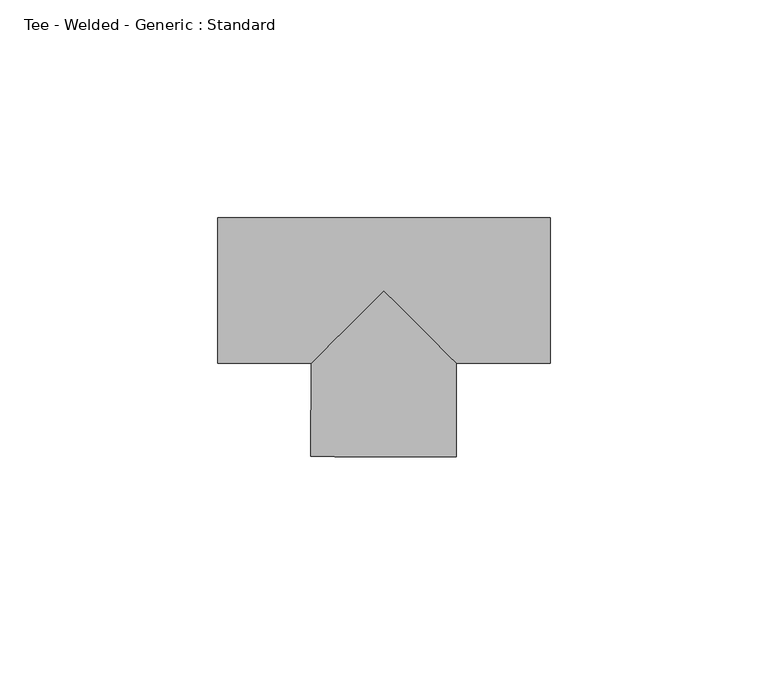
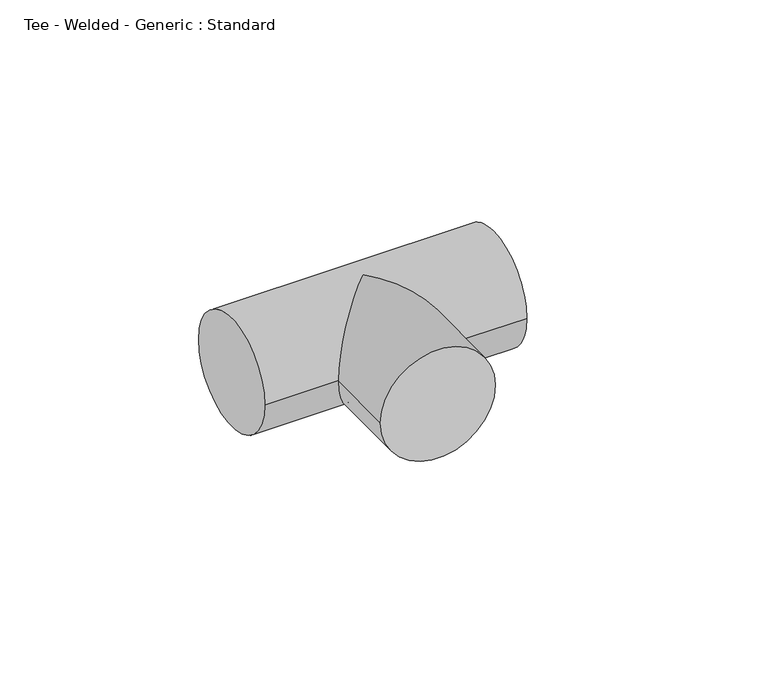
"""IFC4 building model written with IfcOpenShell, lengths in millimetres: pipe fitting geometry, Tee - Welded - Generic : Standard."""

from ifc_helpers import new_model, si_unit, frame, origin, place, context, project, spatial, circle_curve, ellipse_curve, source, transform, mapped, element, save
from ifc_brep_helpers import plane_surface, cylinder_surface, advanced_brep


def tee_welded_generic_standard_e05e198e(model_context):
    return source(origin(), model_context, "Body", "AdvancedBrep", [
        advanced_brep(
        [(-38.1, -16.66875, 0.0), (-38.1, 16.66875, 0.0), (38.1, -16.66875, 0.0), (38.1, 16.66875, 0.0), (-16.7202407, -16.66875, 0.0), (0.0, 0.0, 16.66875), (16.6174178, -16.66875, 0.0), (0.0, 0.0, -16.66875), (-16.7861821, -38.0484076, 0.0), (16.5511594, -38.15123, 0.0)],
        [
            (0, 1, circle_curve(frame((-38.1, 0.0, 0.0), z_axis=(-1.0, 0.0, 0.0), x_axis=(0.0, 1.0, 0.0)), 16.66875)),
            (1, 0, circle_curve(frame((-38.1, 0.0, 0.0), z_axis=(-1.0, 0.0, 0.0), x_axis=(0.0, 1.0, 0.0)), 16.66875)),
            (2, 3, circle_curve(frame((38.1, 0.0, 0.0), z_axis=(1.0, 0.0, 0.0), x_axis=(0.0, 1.0, 0.0)), 16.66875)),
            (3, 2, circle_curve(frame((38.1, 0.0, 0.0), z_axis=(1.0, 0.0, 0.0), x_axis=(0.0, 1.0, 0.0)), 16.66875)),
            (0, 4),
            (4, 5, ellipse_curve(frame((0.0, 0.0, 0.0), z_axis=(-0.706015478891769, 0.7081964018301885, 0.0), x_axis=(-0.7081964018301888, -0.7060154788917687, 0.0)), 23.6096098, 16.66875)),
            (5, 6, ellipse_curve(frame((0.0, 0.0, 0.0), z_axis=(0.7081964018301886, 0.706015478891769, 0.0), x_axis=(-0.706015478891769, 0.7081964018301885, 0.0)), 23.536903, 16.66875)),
            (6, 2),
            (3, 1),
            (6, 7, ellipse_curve(frame((0.0, 0.0, 0.0), z_axis=(0.7081964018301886, 0.706015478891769, 0.0), x_axis=(-0.706015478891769, 0.7081964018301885, 0.0)), 23.536903, 16.66875)),
            (7, 4, ellipse_curve(frame((0.0, 0.0, 0.0), z_axis=(-0.706015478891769, 0.7081964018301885, 0.0), x_axis=(-0.7081964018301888, -0.7060154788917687, 0.0)), 23.6096098, 16.66875)),
            (8, 9, circle_curve(frame((-0.1175113, -38.0998188, 0.0), z_axis=(-0.0030842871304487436, -0.9999952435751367, 0.0), x_axis=(0.9999952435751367, -0.0030842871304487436, 0.0)), 16.66875)),
            (9, 8, circle_curve(frame((-0.1175113, -38.0998188, 0.0), z_axis=(-0.0030842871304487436, -0.9999952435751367, 0.0), x_axis=(0.9999952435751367, -0.0030842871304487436, 0.0)), 16.66875)),
            (9, 6),
            (4, 8),
        ],
        [
            plane_surface(frame((-38.1, 0.0, 0.0), z_axis=(-1.0, 0.0, 0.0), x_axis=(0.0, 0.0, 1.0))),
            plane_surface(frame((38.1, 0.0, 0.0), z_axis=(1.0, 0.0, 0.0), x_axis=(0.0, 0.0, 1.0))),
            cylinder_surface(frame((-38.1, 0.0, 0.0), z_axis=(-1.0, 0.0, 0.0), x_axis=(0.0, 1.0, 0.0)), 16.66875),
            plane_surface(frame((-0.1175113, -38.0998188, 0.0), z_axis=(-0.0030842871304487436, -0.9999952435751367, 0.0), x_axis=(0.0, 0.0, 1.0))),
            cylinder_surface(frame((0.0, 0.0, 0.0), z_axis=(0.0030842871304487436, 0.9999952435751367, 0.0), x_axis=(0.9999952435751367, -0.0030842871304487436, 0.0)), 16.66875),
        ],
        [
            (0, [[1, 2]]),
            (1, [[3, 4]]),
            (2, [[-1, 5, 6, 7, 8, -4, 9]]),
            (2, [[-2, -9, -3, -8, 10, 11, -5]]),
            (3, [[12, 13]]),
            (4, [[-13, 14, -7, -6, 15]]),
            (4, [[-12, -15, -11, -10, -14]]),
        ],
    ),
    ])


if __name__ == "__main__":
    model = new_model("IFC4")
    model_context = context("Model", 3, world=origin())
    ifc_project = project(units=[si_unit("LENGTHUNIT", "METRE", prefix="MILLI")], contexts=[model_context])
    site = spatial("IfcSite", under=ifc_project)
    building = spatial("IfcBuilding", under=site)
    placement = place(None, origin())
    tee_welded_generic_standard_shape = tee_welded_generic_standard_e05e198e(model_context)
    element("IfcPipeFitting", 1, ObjectType="Tee - Welded - Generic : Standard", at=placement, inside=building, context=model_context, shape_type="MappedRepresentation", body=[
        mapped(tee_welded_generic_standard_shape, transform((0.0, 0.0, 0.0), x_axis=(1.0, 0.0, 0.0), y_axis=(0.0, 1.0, 0.0), z_axis=(0.0, 0.0, 1.0))),
    ])
    save(model, "model.ifc")
